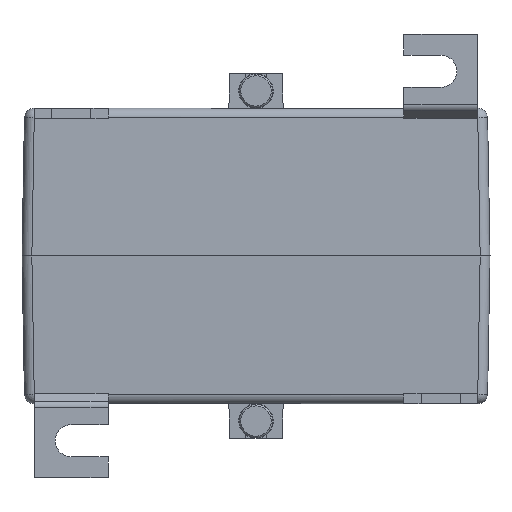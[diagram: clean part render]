
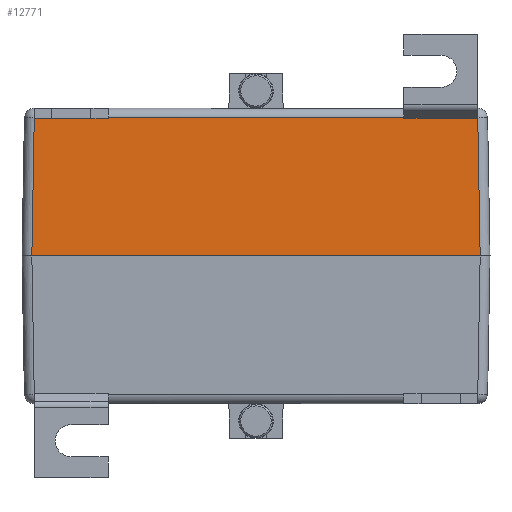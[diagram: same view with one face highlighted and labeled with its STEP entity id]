
A CAD part, front view. The second image highlights one B-rep face of the part: STEP entity #12771.
In plain terms, the highlighted planar face has unit normal (0, -1, 0.018).
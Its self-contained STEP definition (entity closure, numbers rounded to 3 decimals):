
#593 = EDGE_CURVE ( 'NONE', #1384, #1386, #16217, .T. ) ;
#1384 = VERTEX_POINT ( 'NONE', #17911 ) ;
#1386 = VERTEX_POINT ( 'NONE', #17918 ) ;
#1400 = VERTEX_POINT ( 'NONE', #17933 ) ;
#1413 = EDGE_CURVE ( 'NONE', #1400, #1422, #17943, .T. ) ;
#1422 = VERTEX_POINT ( 'NONE', #17968 ) ;
#7486 = CARTESIAN_POINT ( 'NONE',  ( 45.5, -50., 0. ) ) ;
#7624 = VECTOR ( 'NONE', #7784, 1000. ) ;
#7625 = CARTESIAN_POINT ( 'NONE',  ( 45.472, -49.972, 1.622 ) ) ;
#7626 = LINE ( 'NONE', #7625, #7624 ) ;
#7721 = DIRECTION ( 'NONE',  ( 1., 0., 0. ) ) ;
#7722 = VECTOR ( 'NONE', #7721, 1000. ) ;
#7723 = CARTESIAN_POINT ( 'NONE',  ( -47.5, -50., 0. ) ) ;
#7724 = CARTESIAN_POINT ( 'NONE',  ( -45.5, -50., 0. ) ) ;
#7732 = LINE ( 'NONE', #7723, #7722 ) ;
#7784 = DIRECTION ( 'NONE',  ( -0.017, 0.017, 1. ) ) ;
#7822 = VECTOR ( 'NONE', #7854, 1000. ) ;
#7843 = DIRECTION ( 'NONE',  ( -0.009, 0.017, 1. ) ) ;
#7844 = VECTOR ( 'NONE', #7843, 1000. ) ;
#7845 = CARTESIAN_POINT ( 'NONE',  ( -44.738, -50., 0.024 ) ) ;
#7846 = LINE ( 'NONE', #7845, #7844 ) ;
#7847 = CARTESIAN_POINT ( 'NONE',  ( -47.5, -49.511, 28.035 ) ) ;
#7848 = LINE ( 'NONE', #7847, #7881 ) ;
#7849 = CARTESIAN_POINT ( 'NONE',  ( -30.018, -49.511, 27.988 ) ) ;
#7850 = DIRECTION ( 'NONE',  ( -0.009, 0.017, 1. ) ) ;
#7851 = VECTOR ( 'NONE', #7850, 1000. ) ;
#7852 = CARTESIAN_POINT ( 'NONE',  ( -47.5, -49.511, 27.988 ) ) ;
#7853 = LINE ( 'NONE', #7852, #7890 ) ;
#7854 = DIRECTION ( 'NONE',  ( -1., 0., 0. ) ) ;
#7859 = CARTESIAN_POINT ( 'NONE',  ( 30.256, -49.988, 0.678 ) ) ;
#7860 = LINE ( 'NONE', #7859, #7851 ) ;
#7862 = CARTESIAN_POINT ( 'NONE',  ( -47.5, -49.511, 27.988 ) ) ;
#7863 = LINE ( 'NONE', #7862, #7822 ) ;
#7864 = CARTESIAN_POINT ( 'NONE',  ( -44.982, -49.511, 27.988 ) ) ;
#7870 = CARTESIAN_POINT ( 'NONE',  ( -45.501, -50.001, -0.035 ) ) ;
#7872 = VECTOR ( 'NONE', #7891, 1000. ) ;
#7876 = LINE ( 'NONE', #7870, #7872 ) ;
#7877 = DIRECTION ( 'NONE',  ( -0.009, -0.017, -1. ) ) ;
#7878 = VECTOR ( 'NONE', #7877, 1000. ) ;
#7879 = AXIS2_PLACEMENT_3D ( 'NONE', #7923, #7907, #7906 ) ;
#7880 = DIRECTION ( 'NONE',  ( -1., 0., 0. ) ) ;
#7881 = VECTOR ( 'NONE', #7880, 1000. ) ;
#7887 = CARTESIAN_POINT ( 'NONE',  ( -30.263, -50.003, -0.15 ) ) ;
#7888 = LINE ( 'NONE', #7887, #7878 ) ;
#7889 = DIRECTION ( 'NONE',  ( -1., 0., 0. ) ) ;
#7890 = VECTOR ( 'NONE', #7889, 1000. ) ;
#7891 = DIRECTION ( 'NONE',  ( -0.017, -0.017, -1. ) ) ;
#7892 = CARTESIAN_POINT ( 'NONE',  ( -44.983, -49.511, 28.035 ) ) ;
#7901 = DIRECTION ( 'NONE',  ( -0.009, -0.017, -1. ) ) ;
#7902 = VECTOR ( 'NONE', #7901, 1000. ) ;
#7903 = CARTESIAN_POINT ( 'NONE',  ( 44.731, -50.014, -0.805 ) ) ;
#7905 = CARTESIAN_POINT ( 'NONE',  ( -45.011, -49.511, 28.035 ) ) ;
#7906 = DIRECTION ( 'NONE',  ( 0., -0.017, -1. ) ) ;
#7907 = DIRECTION ( 'NONE',  ( 0., -1., 0.017 ) ) ;
#7910 = LINE ( 'NONE', #7903, #7902 ) ;
#7911 = CARTESIAN_POINT ( 'NONE',  ( 44.982, -49.511, 27.988 ) ) ;
#7912 = PLANE ( 'NONE',  #7879 ) ;
#7917 = FACE_OUTER_BOUND ( 'NONE', #12768, .T. ) ;
#7918 = CARTESIAN_POINT ( 'NONE',  ( 30.018, -49.511, 27.988 ) ) ;
#7923 = CARTESIAN_POINT ( 'NONE',  ( -47.5, -50., 0. ) ) ;
#12531 = VERTEX_POINT ( 'NONE', #7486 ) ;
#12665 = EDGE_CURVE ( 'NONE', #12668, #12531, #7732, .T. ) ;
#12668 = VERTEX_POINT ( 'NONE', #7724 ) ;
#12739 = EDGE_CURVE ( 'NONE', #12775, #12773, #7863, .T. ) ;
#12741 = ORIENTED_EDGE ( 'NONE', *, *, #12739, .T. ) ;
#12743 = EDGE_CURVE ( 'NONE', #12773, #1384, #7860, .T. ) ;
#12744 = ORIENTED_EDGE ( 'NONE', *, *, #593, .T. ) ;
#12745 = EDGE_CURVE ( 'NONE', #12747, #12752, #7846, .T. ) ;
#12747 = VERTEX_POINT ( 'NONE', #7864 ) ;
#12749 = VERTEX_POINT ( 'NONE', #7849 ) ;
#12750 = ORIENTED_EDGE ( 'NONE', *, *, #12760, .T. ) ;
#12751 = EDGE_CURVE ( 'NONE', #12749, #12747, #7853, .T. ) ;
#12752 = VERTEX_POINT ( 'NONE', #7892 ) ;
#12753 = ORIENTED_EDGE ( 'NONE', *, *, #12751, .T. ) ;
#12755 = EDGE_CURVE ( 'NONE', #12752, #12774, #7848, .T. ) ;
#12756 = ORIENTED_EDGE ( 'NONE', *, *, #1413, .T. ) ;
#12760 = EDGE_CURVE ( 'NONE', #1386, #12749, #7888, .T. ) ;
#12763 = EDGE_CURVE ( 'NONE', #12774, #12668, #7876, .T. ) ;
#12768 = EDGE_LOOP ( 'NONE', ( #12756, #12830, #12741, #12769, #12744, #12750, #12753, #12818, #12821, #12825, #12770, #12827 ) ) ;
#12769 = ORIENTED_EDGE ( 'NONE', *, *, #12743, .T. ) ;
#12770 = ORIENTED_EDGE ( 'NONE', *, *, #12665, .T. ) ;
#12771 = ADVANCED_FACE ( 'NONE', ( #7917 ), #7912, .T. ) ;
#12772 = EDGE_CURVE ( 'NONE', #1422, #12775, #7910, .T. ) ;
#12773 = VERTEX_POINT ( 'NONE', #7918 ) ;
#12774 = VERTEX_POINT ( 'NONE', #7905 ) ;
#12775 = VERTEX_POINT ( 'NONE', #7911 ) ;
#12818 = ORIENTED_EDGE ( 'NONE', *, *, #12745, .T. ) ;
#12821 = ORIENTED_EDGE ( 'NONE', *, *, #12755, .T. ) ;
#12824 = EDGE_CURVE ( 'NONE', #12531, #1400, #7626, .T. ) ;
#12825 = ORIENTED_EDGE ( 'NONE', *, *, #12763, .T. ) ;
#12827 = ORIENTED_EDGE ( 'NONE', *, *, #12824, .T. ) ;
#12830 = ORIENTED_EDGE ( 'NONE', *, *, #12772, .T. ) ;
#16214 = DIRECTION ( 'NONE',  ( -1., 0., 0. ) ) ;
#16215 = VECTOR ( 'NONE', #16214, 1000. ) ;
#16216 = CARTESIAN_POINT ( 'NONE',  ( -47.5, -49.511, 28.035 ) ) ;
#16217 = LINE ( 'NONE', #16216, #16215 ) ;
#17911 = CARTESIAN_POINT ( 'NONE',  ( 30.017, -49.511, 28.035 ) ) ;
#17918 = CARTESIAN_POINT ( 'NONE',  ( -30.017, -49.511, 28.035 ) ) ;
#17933 = CARTESIAN_POINT ( 'NONE',  ( 45.011, -49.511, 28.035 ) ) ;
#17943 = LINE ( 'NONE', #17977, #17976 ) ;
#17968 = CARTESIAN_POINT ( 'NONE',  ( 44.983, -49.511, 28.035 ) ) ;
#17975 = DIRECTION ( 'NONE',  ( -1., 0., 0. ) ) ;
#17976 = VECTOR ( 'NONE', #17975, 1000. ) ;
#17977 = CARTESIAN_POINT ( 'NONE',  ( -47.5, -49.511, 28.035 ) ) ;
